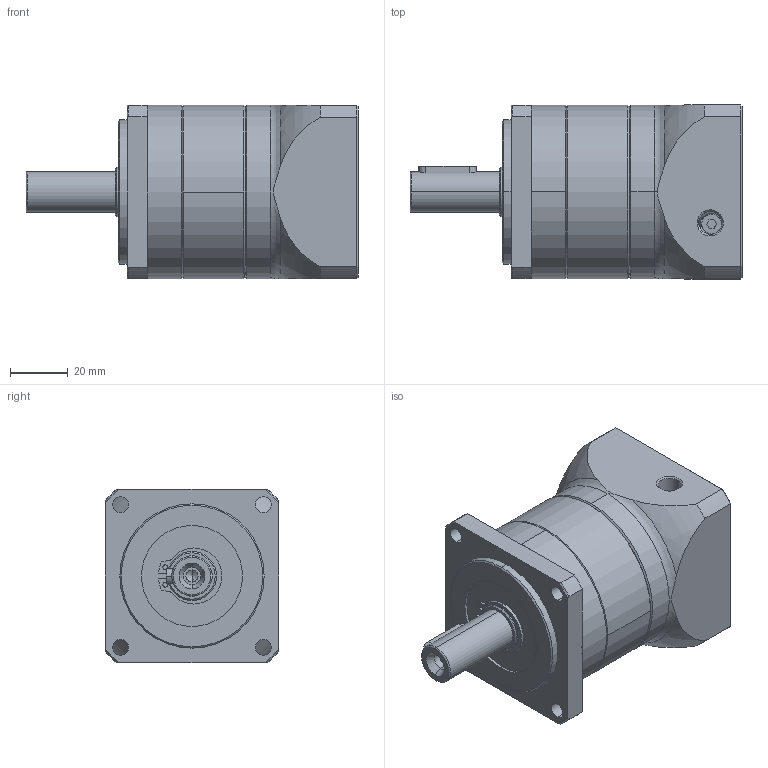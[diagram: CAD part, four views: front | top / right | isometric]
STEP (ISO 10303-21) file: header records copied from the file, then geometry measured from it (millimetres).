
FILE_DESCRIPTION (( 'STEP AP214' ), '1' );
FILE_NAME ('PF60-L1-输入开键B5-M5.STEP', '2023-11-15T06:07:15', ( 'User' ), ( 'China' ), 'SwSTEP 2.0', 'SolidWorks 2014', '' );
FILE_SCHEMA (( 'AUTOMOTIVE_DESIGN' ));
Length unit declared in the file: millimetre
Products named in the file (9): 內六角 M4X15螺釘; 17粣蚚縐銅-A倰; 瑩5-5-20; PF60薊粣ん-14-羲瑩B5; PF60粣創杸測啣; PF60-SR01-M5; PL60内齿圈; PF60奻裔啣; PF60-L1-输入开键B5-M5
Assembly tree (13 placements, depth 2):
  PF60-L1-输入开键B5-M5
    PF60奻裔啣
    PL60内齿圈
    PF60-SR01-M5
    PF60粣創杸測啣
    PF60薊粣ん-14-羲瑩B5
    瑩5-5-20
    17粣蚚縐銅-A倰
    內六角 M4X15螺釘  x6
Bounding box: 115 x 60.2 x 60.2 mm (x, y, z)
Volume: 219964.2 mm3; surface area: 59540.4 mm2
Topology: 13 solids, 13 shells, 501 faces, 1169 edges, 721 vertices
Faces by surface type: cylinder 196, plane 153, cone 118, torus 34
Entity records: 13936 total; most frequent: CARTESIAN_POINT 2627, DIRECTION 2195, ORIENTED_EDGE 1878, EDGE_CURVE 939, AXIS2_PLACEMENT_3D 895, VERTEX_POINT 591, CIRCLE 478, EDGE_LOOP 474
